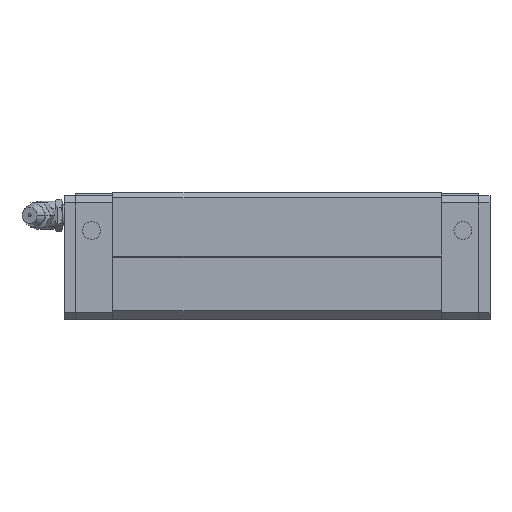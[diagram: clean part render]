
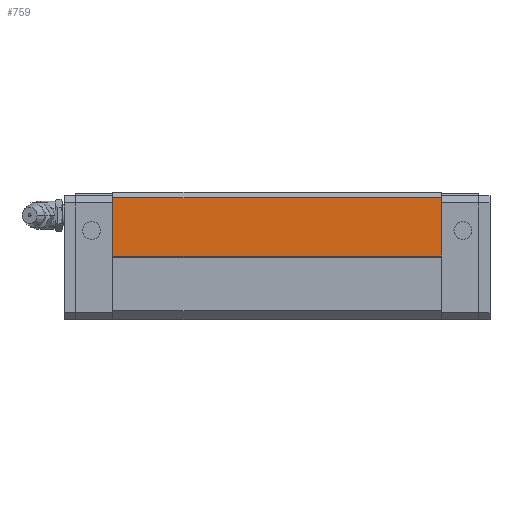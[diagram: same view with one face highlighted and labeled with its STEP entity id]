
A CAD part, front view. The second image highlights one B-rep face of the part: STEP entity #759.
In plain terms, the highlighted planar face has unit normal (0, -1, 0).
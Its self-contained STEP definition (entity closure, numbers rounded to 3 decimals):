
#698=CARTESIAN_POINT('POINT44',(106.7,-30.,
   18.));
#699=VERTEX_POINT('VERTEX44',#698);
#706=CARTESIAN_POINT('POINT45',(13.7,-30.,
   18.));
#707=VERTEX_POINT('VERTEX45',#706);
#708=CARTESIAN_POINT('POS73',(13.7,-30.,
   18.));
#709=DIRECTION('DIR108',(1.,0.,0.));
#710=VECTOR('VEC38',#709,1.);
#711=LINE('STRAIGHT38',#708,#710);
#712=EDGE_CURVE('EDGE70',#707,#699,#711,.T.);
#729=CARTESIAN_POINT('POINT46',(106.7,-30.,
   34.5));
#730=VERTEX_POINT('VERTEX46',#729);
#731=CARTESIAN_POINT('POS76',(106.7,-30.,
   18.));
#732=DIRECTION('DIR112',(0.,0.,1.));
#733=VECTOR('VEC40',#732,1.);
#734=LINE('STRAIGHT40',#731,#733);
#735=EDGE_CURVE('EDGE72',#699,#730,#734,.T.);
#736=ORIENTED_EDGE('COEDGE127',*,*,#735,.T.);
#737=CARTESIAN_POINT('POINT47',(13.7,-30.,
   34.5));
#738=VERTEX_POINT('VERTEX47',#737);
#739=CARTESIAN_POINT('POS77',(13.7,-30.,
   34.5));
#740=DIRECTION('DIR113',(1.,0.,0.));
#741=VECTOR('VEC41',#740,1.);
#742=LINE('STRAIGHT41',#739,#741);
#743=EDGE_CURVE('EDGE73',#738,#730,#742,.T.);
#744=ORIENTED_EDGE('COEDGE128',*,*,#743,.F.);
#745=CARTESIAN_POINT('POS78',(13.7,-30.,
   18.));
#746=DIRECTION('DIR114',(0.,0.,1.));
#747=VECTOR('VEC42',#746,1.);
#748=LINE('STRAIGHT42',#745,#747);
#749=EDGE_CURVE('EDGE74',#707,#738,#748,.T.);
#750=ORIENTED_EDGE('COEDGE129',*,*,#749,.F.);
#751=ORIENTED_EDGE('COEDGE130',*,*,#712,.T.);
#752=EDGE_LOOP('NONE',(#736,#744,#750,#751));
#753=FACE_BOUND('LOOP1',#752,.T.);
#754=CARTESIAN_POINT('POS79',(13.7,-30.,
   18.));
#755=DIRECTION('DIR115',(0.,-1.,0.));
#756=DIRECTION('DIR116',(1.,0.,0.));
#757=AXIS2_PLACEMENT_3D('AXIS37',#754,#755,#756);
#758=PLANE('PLANE8',#757);
#759=ADVANCED_FACE('FACE34',(#753),#758,.T.);
